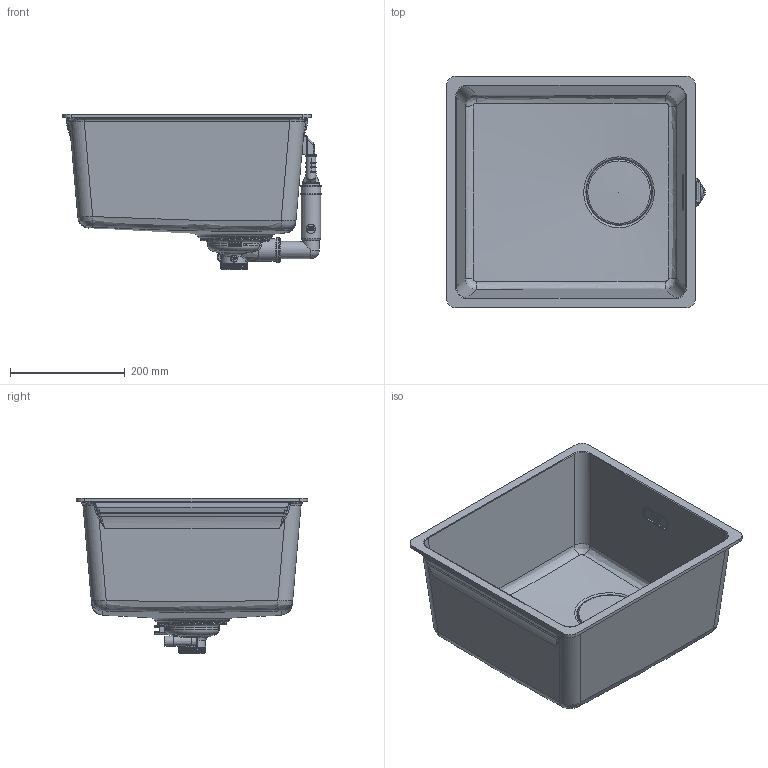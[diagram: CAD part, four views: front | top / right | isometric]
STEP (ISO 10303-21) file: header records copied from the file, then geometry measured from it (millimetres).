
FILE_DESCRIPTION(/* description */ ('UBG 611-62'),/* implementation_level */ '2;1');
FILE_NAME(/* name */ 'C:\Users\PS950\OneDrive - Franke Group\Maris Bowls MRG\Flushmount\MRG 210-37\3D Data\MRG 210-37.stp',/* time_stamp */ '2021-09-29T13:47:02+02:00',/* author */ ('PS950'),/* organization */ (''),/* preprocessor_version */ 'ST-DEVELOPER v18.1',/* originating_system */ 'Autodesk Inventor 2021',/* authorisation */ '');
FILE_SCHEMA (('AUTOMOTIVE_DESIGN { 1 0 10303 214 3 1 1 }'));
Products named in the file (22): 0056-218847; Standard; NEW MARIS_V01; 0056-218666; 0056-202897; 0056-214469; 0056-203246; 0056-213999; 0056-127368; 0056-215850; 0056-215855; 0056-185732; 0056-214454; 0056-214010; 0056-135514; 0056-137629; 0056-142823; 0056-165491; 0056-161093; 0056-216002; 0056-216000; 0056-207145
Assembly tree (24 placements, depth 4):
  0056-218847
    Standard
      NEW MARIS_V01
    0056-218666
      0056-202897
      0056-214469
      0056-203246
        0056-213999
        0056-127368
        0056-215850
        0056-215855
        0056-185732
        0056-214454
        0056-214010
    0056-135514
    0056-137629
    0056-142823
    0056-165491
    0056-161093
    0056-216002
      0056-216000
      0056-207145  x4
Bounding box: 450.33 x 403 x 271.19 mm (x, y, z)
Volume: 3175087.1 mm3; surface area: 1060132.3 mm2
Topology: 20 solids, 20 shells, 5071 faces, 13495 edges, 8648 vertices
Faces by surface type: plane 2658, bspline 1136, cylinder 655, torus 341, cone 218, sphere 63
Full cylindrical faces by diameter (mm): 3.242 x1, 4 x1, 4.5 x1, 4.7 x1, 4.85 x1, 5.2 x1, 5.25 x1, 5.85 x2, 6 x4, 6.01 x1, 6.2 x1, 8 x2, 8.25 x1, 11.003 x8, 12 x1, 12.5 x9, 12.6 x1, 13.743 x1, 14.3 x1, 16.941 x1, 22 x1, 26 x1, 27 x1, 28 x2, 30 x7, 33 x2, 33.75 x1, 34 x2, 36.5 x1, 39 x2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
Entity records: 181885 total; most frequent: CARTESIAN_POINT 66795, ORIENTED_EDGE 25792, DIRECTION 20369, EDGE_CURVE 12896, VERTEX_POINT 8336, LINE 7567, VECTOR 7567, AXIS2_PLACEMENT_3D 6401
